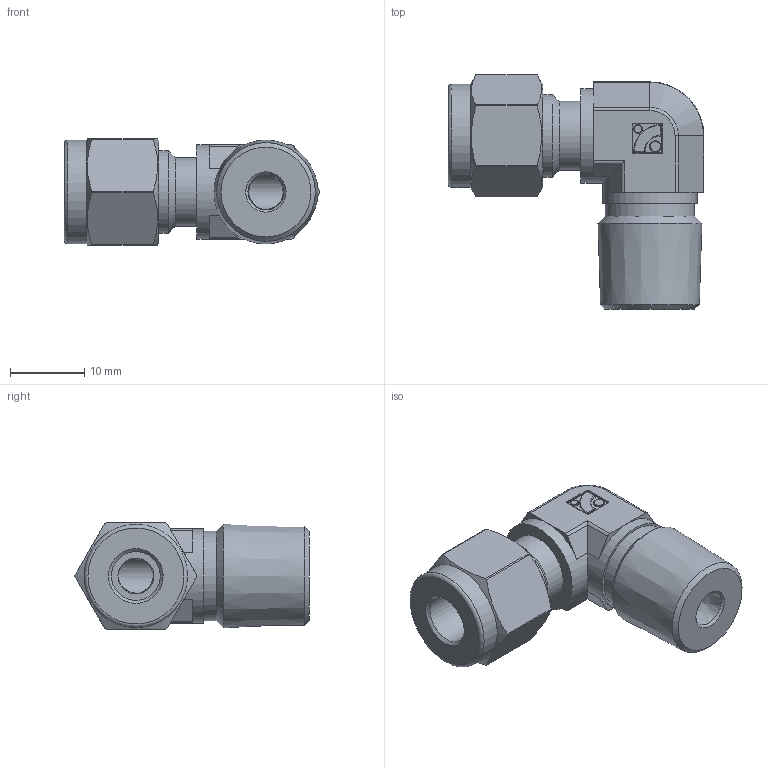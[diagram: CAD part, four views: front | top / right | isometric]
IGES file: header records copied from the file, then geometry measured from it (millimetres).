
Global section: file name: No Iges File Name specified; native system: Autodesk Inventor 2012; preprocessor: AutoDesk Inventor Iges Exporter R2012; author: 硅己绕,,1; organization: 1; date: 20150702.174823; units: millimetre
Bounding box: 34.4 x 31.5 x 14.3 mm (x, y, z)
Volume: 5825.2 mm3; surface area: 3402.1 mm2
Topology: 1 solids, 1 shells, 129 faces, 289 edges, 167 vertices
Faces by surface type: plane 42, cylinder 35, revolution 28, torus 12, cone 8, sphere 4
Full cylindrical faces by diameter (mm): 1.08 x1, 1.44 x1, 9.3 x1, 11.112 x1, 12 x1, 12.7 x2, 13.9 x1
